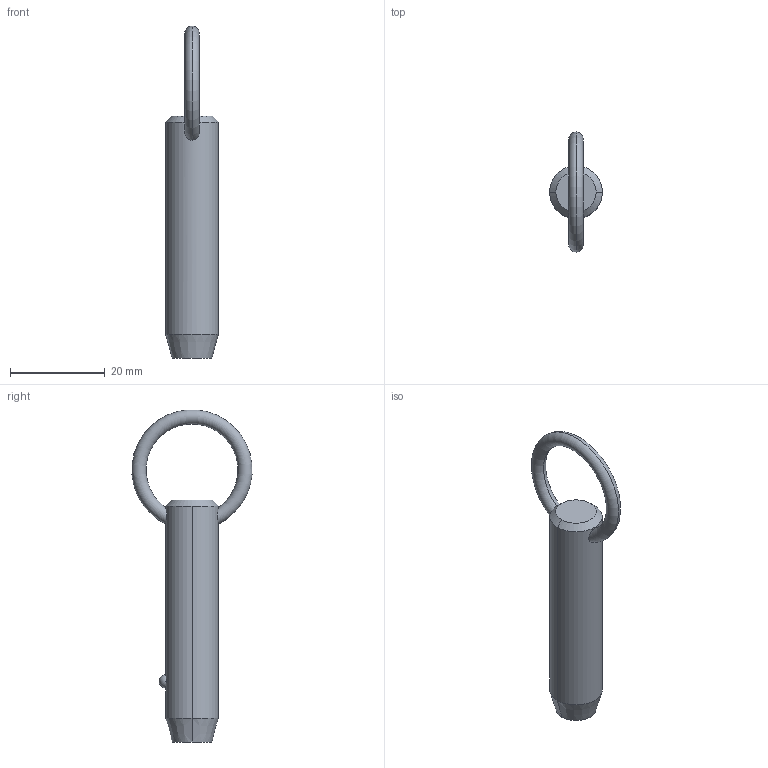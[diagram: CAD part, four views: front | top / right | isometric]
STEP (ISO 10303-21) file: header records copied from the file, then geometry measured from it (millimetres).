
FILE_DESCRIPTION (( 'STEP AP203' ), '1' );
FILE_NAME ('P1250.050-120.step', '2019-07-29T20:29:22', ( '' ), ( '' ), 'SwSTEP 2.0', 'SolidWorks 2017', '' );
FILE_SCHEMA (( 'CONFIG_CONTROL_DESIGN' ));
Length unit declared in the file: millimetre
Products named in the file (1): P1250.050-120
Bounding box: 11.1 x 25.32 x 70.05 mm (x, y, z)
Volume: 5227.6 mm3; surface area: 2434.6 mm2
Topology: 1 solids, 1 shells, 12 faces, 28 edges, 17 vertices
Faces by surface type: cone 4, torus 2, sphere 2, cylinder 2, plane 2
Entity records: 523 total; most frequent: CARTESIAN_POINT 190, DIRECTION 56, ORIENTED_EDGE 48, AXIS2_PLACEMENT_3D 25, EDGE_CURVE 24, EDGE_LOOP 15, VERTEX_POINT 15, ADVANCED_FACE 12
